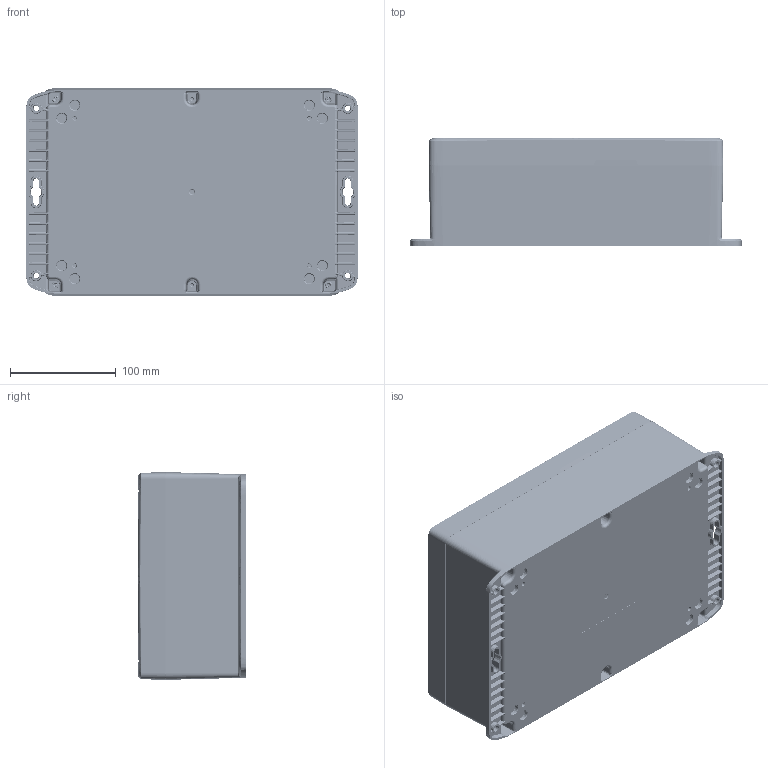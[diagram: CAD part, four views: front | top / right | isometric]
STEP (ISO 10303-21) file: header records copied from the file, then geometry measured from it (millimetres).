
FILE_DESCRIPTION (( 'STEP AP214' ), '1' );
FILE_NAME ('HN-88-03.STEP', '2026-02-24T16:23:28', ( '' ), ( '' ), 'SwSTEP 2.0', 'SolidWorks 2025', '' );
FILE_SCHEMA (( 'AUTOMOTIVE_DESIGN' ));
Length unit declared in the file: inch
Products named in the file (9): HN-88BN_HN-88BFN-00; INSERTS-3_INSERTS-3; HN-88G_default; LABEL-100-01; SCREWS-054_DEFAULT; HN-88C_HN-88C-00; HN-88B_HN-88BF-00; HN-88CG_HN-88CG-00; HN-88-03
Assembly tree (18 placements, depth 3):
  HN-88-03
    HN-88B_HN-88BF-00
      HN-88BN_HN-88BFN-00
      INSERTS-3_INSERTS-3  x6
      LABEL-100-01
    HN-88CG_HN-88CG-00
      HN-88C_HN-88C-00
      HN-88G_default
    SCREWS-054_DEFAULT  x6
Bounding box: 314.57 x 101.96 x 196.85 mm (x, y, z)
Volume: 761767.5 mm3; surface area: 476170.1 mm2
Topology: 15 solids, 17 shells, 7142 faces, 17377 edges, 10219 vertices
Faces by surface type: torus 1648, cone 1536, bspline 1518, cylinder 1311, plane 1027, sphere 102
Entity records: 237624 total; most frequent: CARTESIAN_POINT 102862, ORIENTED_EDGE 30520, DIRECTION 26120, EDGE_CURVE 15263, AXIS2_PLACEMENT_3D 11292, VERTEX_POINT 9109, EDGE_LOOP 6427, CIRCLE 6349
